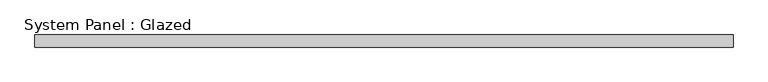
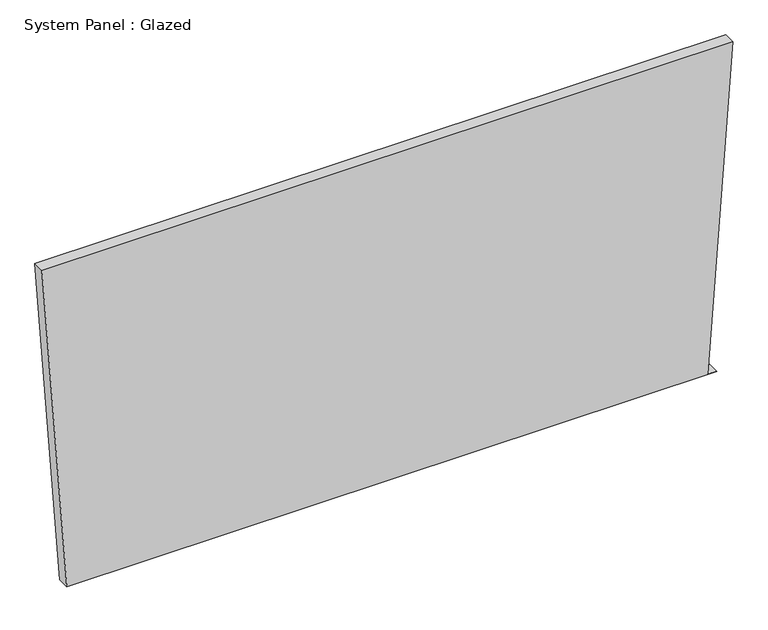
"""IFC4 building model written with IfcOpenShell, lengths in millimetres: plate geometry, System Panel : Glazed."""

from ifc_helpers import new_model, si_unit, frame, origin, place, context, project, spatial, polyline, outline, extrude, source, transform, mapped, element, save


def system_panel_glazed_562aa659(model_context):
    return source(origin(), model_context, "Body", "SweptSolid", [
        extrude(outline(polyline([(0.0, -678.8077841), (0.000597, 697.9079606), (1.3805577, 678.9080077), (726.5378308, 731.5759567), (726.5371985, -731.5759567), (0.0, -678.8077841)])), frame((0.0, 19.05, 0.0), z_axis=(0.0, 1.0, 0.0), x_axis=(0.0, 0.0, 1.0)), (0.0, 0.0, 1.0), 25.4),
    ])


if __name__ == "__main__":
    model = new_model("IFC4")
    model_context = context("Model", 3, world=origin())
    ifc_project = project(units=[si_unit("LENGTHUNIT", "METRE", prefix="MILLI")], contexts=[model_context])
    site = spatial("IfcSite", under=ifc_project)
    building = spatial("IfcBuilding", under=site)
    placement = place(None, origin())
    system_panel_glazed_shape = system_panel_glazed_562aa659(model_context)
    element("IfcPlate", 1, ObjectType="System Panel : Glazed", at=placement, inside=building, context=model_context, shape_type="MappedRepresentation", body=[
        mapped(system_panel_glazed_shape, transform((0.0, 0.0, 0.0), x_axis=(1.0, 0.0, 0.0), y_axis=(0.0, 1.0, 0.0), z_axis=(0.0, 0.0, 1.0))),
    ])
    save(model, "model.ifc")
